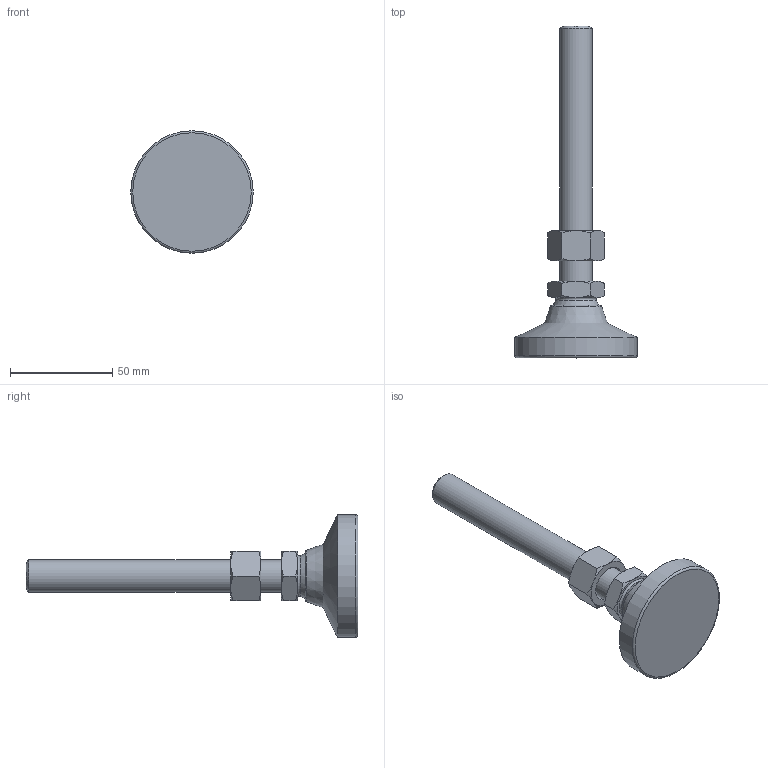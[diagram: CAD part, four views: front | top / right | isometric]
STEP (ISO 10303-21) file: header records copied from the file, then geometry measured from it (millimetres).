
FILE_DESCRIPTION( ( 'STEP AP214' ), ' ' );
FILE_NAME( 'O:/ganter_2015/teil_2/2_5/gn343_2/gn343_2_ks/Levelling foot with threaded stud GN 343.2-60-M16-125-KS-(0).stp', '2015-10-26T09:11:31', ( '' ), ( '' ), ' ', 'PARTsolutions', ' ' );
FILE_SCHEMA( ( 'AUTOMOTIVE_DESIGN { 1 0 10303 214 1 1 1 1 }' ) );
Length unit declared in the file: millimetre
Products named in the file (4): Levelling foot with threaded stud GN 343.2-60-M16-125-KS-(0); _Levelling foot with threaded stud GN 343.2-60-M16-125-KS-(0)_foot; _Gelenkfuss mit Schraube GN 343.2-60-M16-125-KS-(0)_screw; _GLevelling foot with threaded stud GN 343.2-60-M16-125-KS-(0)_nut
Assembly tree (3 placements, depth 2):
  Levelling foot with threaded stud GN 343.2-60-M16-125-KS-(0)
    _Levelling foot with threaded stud GN 343.2-60-M16-125-KS-(0)_foot
    _Gelenkfuss mit Schraube GN 343.2-60-M16-125-KS-(0)_screw
    _GLevelling foot with threaded stud GN 343.2-60-M16-125-KS-(0)_nut
Bounding box: 60 x 162.5 x 60 mm (x, y, z)
Volume: 80738.2 mm3; surface area: 20362 mm2
Topology: 3 solids, 3 shells, 56 faces, 117 edges, 68 vertices
Faces by surface type: cone 29, plane 19, torus 3, cylinder 3, sphere 2
Full cylindrical faces by diameter (mm): 13.835 x1, 16 x1, 60 x1
Entity records: 2082 total; most frequent: CARTESIAN_POINT 514, DIRECTION 212, ORIENTED_EDGE 200, AXIS2_PLACEMENT_3D 100, EDGE_CURVE 100, EDGE_LOOP 72, VERTEX_POINT 66, FACE_OUTER_BOUND 62
